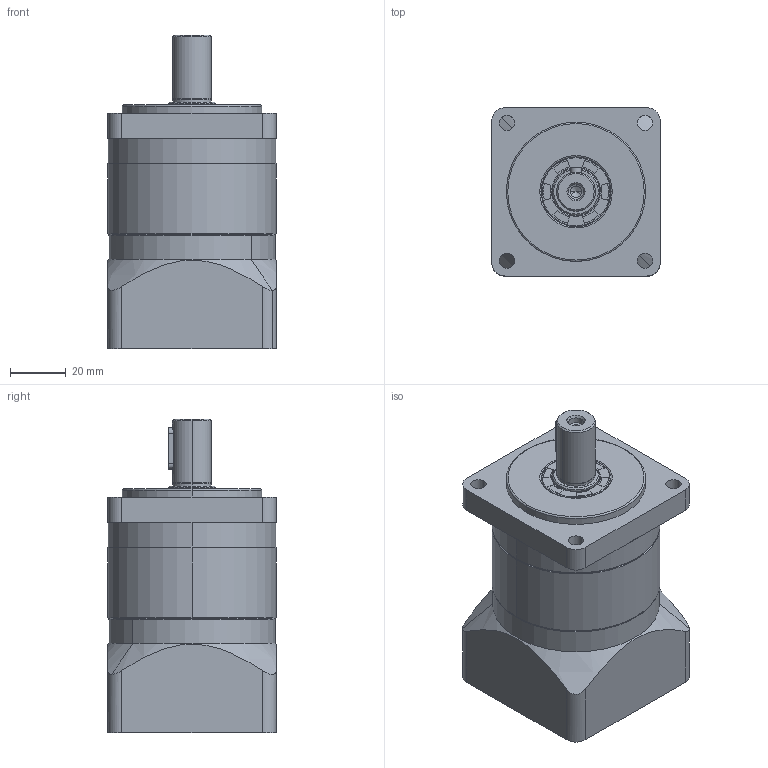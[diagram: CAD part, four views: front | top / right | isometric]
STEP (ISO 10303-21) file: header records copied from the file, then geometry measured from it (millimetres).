
FILE_DESCRIPTION (( 'STEP AP203' ), '1' );
FILE_NAME ('SB60-L1(6.35-38.1-66.67-M4).STEP', '2022-03-11T18:13:09', ( '' ), ( '' ), 'SwSTEP 2.0', 'SolidWorks 2016', '' );
FILE_SCHEMA (( 'CONFIG_CONTROL_DESIGN' ));
Length unit declared in the file: millimetre
Products named in the file (9): SN60-(14); SN60; SN60-(14x24-4x15); 60-(o14-6.35x17); SN60-(38.1-66.67-M4); SN60-17x25x4; SN60-34x20x10.5-M5; SB60-(50x3-70-5.5)-; SB60-L1(6.35-38.1-66.67-M4)
Assembly tree (8 placements, depth 2):
  SB60-L1(6.35-38.1-66.67-M4)
    SB60-(50x3-70-5.5)-
    SN60-17x25x4
    SN60-(14x24-4x15)
    SN60
    SN60-(38.1-66.67-M4)
    SN60-(14)
    SN60-34x20x10.5-M5
    60-(o14-6.35x17)
Bounding box: 60.5 x 60.5 x 112.6 mm (x, y, z)
Volume: 263682.5 mm3; surface area: 67100.7 mm2
Topology: 11 solids, 11 shells, 425 faces, 1075 edges, 682 vertices
Faces by surface type: cylinder 212, plane 110, cone 54, bspline 39, torus 10
Entity records: 32180 total; most frequent: CARTESIAN_POINT 21520, ORIENTED_EDGE 2114, DIRECTION 1964, EDGE_CURVE 1057, AXIS2_PLACEMENT_3D 775, VERTEX_POINT 682, EDGE_LOOP 493, FACE_OUTER_BOUND 425
